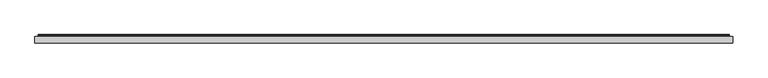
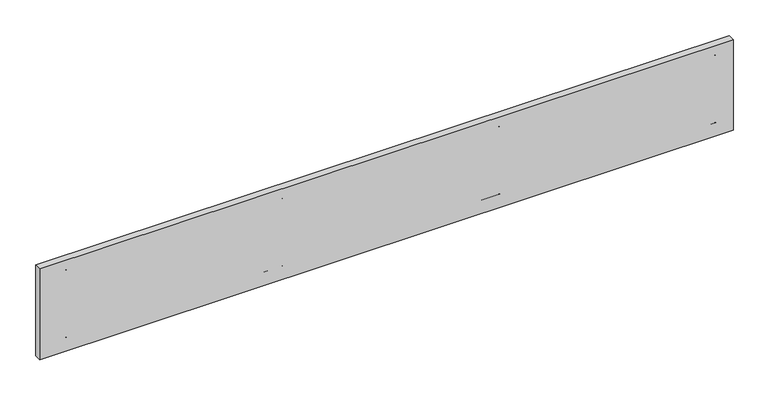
"""IFC4 building model written with IfcOpenShell, lengths in millimetres: furniture geometry, Geiger_GeigerOneCasegoods_WallTileTopTileorWallMountedFabric : RR Fabric 108Wx 1.25Dx 15H."""

from ifc_helpers import new_model, si_unit, point, frame, frame_2d, origin, origin_with_axes, place, context, project, spatial, polyline, circle_curve, trimmed, segment, composite_curve, outline, extrude, source, transform, mapped, element, save


def furniture_3494295b(model_context):
    return source(origin(), model_context, "Body", "SweptSolid", [
        extrude(outline(composite_curve([segment(polyline([(3.5052, 32.2904), (3.5052, 39.2246), (2.6924, 40.012), (0.7874, 40.012), (0.0, 40.8248), (0.0, 72.524), (1.2954, 72.524), (2.8956, 70.9238), (2.8956, 46.3366), (3.7084, 45.5238), (5.588, 45.5238), (6.4008, 44.7364), (6.4008, 31.3252)]), True, "CONTINUOUS"), segment(trimmed(circle_curve(frame_2d((5.5973579, 31.3345579)), 0.8034966), [point((6.4008, 31.3252))], [point((5.0292, 30.7664))], False, "CARTESIAN"), True, "CONTINUOUS"), segment(polyline([(5.0292, 30.7664), (3.5052, 32.2904)]), True, "CONTINUOUS")], self_intersect=False)), frame((1761.336, 0.0, 0.0), z_axis=(1.0, 0.0, 0.0), x_axis=(0.0, 1.0, 0.0)), (0.0, 0.0, 1.0), 76.0),
        extrude(outline(composite_curve([segment(polyline([(3.5052, 314.7864), (3.5052, 321.7206), (2.6924, 322.508), (0.7874, 322.508), (0.0, 323.3208), (0.0, 355.02), (1.2954, 355.02), (2.8956, 353.4198), (2.8956, 328.8326), (3.7084, 328.0198), (5.588, 328.0198), (6.4008, 327.2324), (6.4008, 313.8212)]), True, "CONTINUOUS"), segment(trimmed(circle_curve(frame_2d((5.5973579, 313.8305579)), 0.8034966), [point((6.4008, 313.8212))], [point((5.0292, 313.2624))], False, "CARTESIAN"), True, "CONTINUOUS"), segment(polyline([(5.0292, 313.2624), (3.5052, 314.7864)]), True, "CONTINUOUS")], self_intersect=False)), frame((1761.336, 0.0, 0.0), z_axis=(1.0, 0.0, 0.0), x_axis=(0.0, 1.0, 0.0)), (0.0, 0.0, 1.0), 76.0),
        extrude(outline(composite_curve([segment(polyline([(3.5052, 32.2904), (3.5052, 39.2246), (2.6924, 40.012), (0.7874, 40.012), (0.0, 40.8248), (0.0, 72.524), (1.2954, 72.524), (2.8956, 70.9238), (2.8956, 46.3366), (3.7084, 45.5238), (5.588, 45.5238), (6.4008, 44.7364), (6.4008, 31.3252)]), True, "CONTINUOUS"), segment(trimmed(circle_curve(frame_2d((5.5973579, 31.3345579)), 0.8034966), [point((6.4008, 31.3252))], [point((5.0292, 30.7664))], False, "CARTESIAN"), True, "CONTINUOUS"), segment(polyline([(5.0292, 30.7664), (3.5052, 32.2904)]), True, "CONTINUOUS")], self_intersect=False)), frame((905.864, 0.0, 0.0), z_axis=(1.0, 0.0, 0.0), x_axis=(0.0, 1.0, 0.0)), (0.0, 0.0, 1.0), 76.0),
        extrude(outline(composite_curve([segment(polyline([(3.5052, 314.7864), (3.5052, 321.7206), (2.6924, 322.508), (0.7874, 322.508), (0.0, 323.3208), (0.0, 355.02), (1.2954, 355.02), (2.8956, 353.4198), (2.8956, 328.8326), (3.7084, 328.0198), (5.588, 328.0198), (6.4008, 327.2324), (6.4008, 313.8212)]), True, "CONTINUOUS"), segment(trimmed(circle_curve(frame_2d((5.5973579, 313.8305579)), 0.8034966), [point((6.4008, 313.8212))], [point((5.0292, 313.2624))], False, "CARTESIAN"), True, "CONTINUOUS"), segment(polyline([(5.0292, 313.2624), (3.5052, 314.7864)]), True, "CONTINUOUS")], self_intersect=False)), frame((905.864, 0.0, 0.0), z_axis=(1.0, 0.0, 0.0), x_axis=(0.0, 1.0, 0.0)), (0.0, 0.0, 1.0), 76.0),
        extrude(outline(composite_curve([segment(polyline([(2.8948, 38.2316), (2.8948, 31.2974), (3.7076, 30.51), (5.6126, 30.51), (6.4, 29.6972), (6.4, -2.002), (5.1046, -2.002), (3.5044, -0.4018), (3.5044, 24.1854), (2.6916, 24.9982), (0.812, 24.9982), (-0.0008, 25.7856), (-0.0008, 39.1968)]), True, "CONTINUOUS"), segment(trimmed(circle_curve(frame_2d((0.8026421, 39.1874421)), 0.8034966), [point((-0.0008, 39.1968))], [point((1.3708, 39.7556))], False, "CARTESIAN"), True, "CONTINUOUS"), segment(polyline([(1.3708, 39.7556), (2.8948, 38.2316)]), True, "CONTINUOUS")], self_intersect=False)), frame((12.5, 0.0, 0.0), z_axis=(1.0, 0.0, 0.0), x_axis=(0.0, 1.0, 0.0)), (0.0, 0.0, 1.0), 2718.2),
        extrude(outline(composite_curve([segment(polyline([(3.5052, 32.2904), (3.5052, 39.2246), (2.6924, 40.012), (0.7874, 40.012), (0.0, 40.8248), (0.0, 72.524), (1.2954, 72.524), (2.8956, 70.9238), (2.8956, 46.3366), (3.7084, 45.5238), (5.588, 45.5238), (6.4008, 44.7364), (6.4008, 31.3252)]), True, "CONTINUOUS"), segment(trimmed(circle_curve(frame_2d((5.5973579, 31.3345579)), 0.8034966), [point((6.4008, 31.3252))], [point((5.0292, 30.7664))], False, "CARTESIAN"), True, "CONTINUOUS"), segment(polyline([(5.0292, 30.7664), (3.5052, 32.2904)]), True, "CONTINUOUS")], self_intersect=False)), frame((50.0, 0.0, 0.0), z_axis=(1.0, 0.0, 0.0), x_axis=(0.0, 1.0, 0.0)), (0.0, 0.0, 1.0), 76.0),
        extrude(outline(composite_curve([segment(polyline([(2.8956, 46.3366), (3.7084, 45.5238), (5.588, 45.5238), (6.4008, 44.7364), (6.4008, 31.3252)]), True, "CONTINUOUS"), segment(trimmed(circle_curve(frame_2d((5.5973579, 31.3345579)), 0.8034966), [point((6.4008, 31.3252))], [point((5.0292, 30.7664))], False, "CARTESIAN"), True, "CONTINUOUS"), segment(polyline([(5.0292, 30.7664), (3.5052, 32.2904), (3.5052, 39.2246), (2.6924, 40.012), (0.7874, 40.012), (0.0, 40.8248), (0.0, 72.524), (1.2954, 72.524), (2.8956, 70.9238), (2.8956, 46.3366)]), True, "CONTINUOUS")], self_intersect=False)), frame((2617.2, 0.0, 0.0), z_axis=(1.0, 0.0, 0.0), x_axis=(0.0, 1.0, 0.0)), (0.0, 0.0, 1.0), 76.0),
        extrude(outline(composite_curve([segment(polyline([(2.8956, 328.8326), (3.7084, 328.0198), (5.588, 328.0198), (6.4008, 327.2324), (6.4008, 313.8212)]), True, "CONTINUOUS"), segment(trimmed(circle_curve(frame_2d((5.5973579, 313.8305579)), 0.8034966), [point((6.4008, 313.8212))], [point((5.0292, 313.2624))], False, "CARTESIAN"), True, "CONTINUOUS"), segment(polyline([(5.0292, 313.2624), (3.5052, 314.7864), (3.5052, 321.7206), (2.6924, 322.508), (0.7874, 322.508), (0.0, 323.3208), (0.0, 355.02), (1.2954, 355.02), (2.8956, 353.4198), (2.8956, 328.8326)]), True, "CONTINUOUS")], self_intersect=False)), frame((2617.2, 0.0, 0.0), z_axis=(1.0, 0.0, 0.0), x_axis=(0.0, 1.0, 0.0)), (0.0, 0.0, 1.0), 76.0),
        extrude(outline(composite_curve([segment(polyline([(3.5052, 314.7864), (3.5052, 321.7206), (2.6924, 322.508), (0.7874, 322.508), (0.0, 323.3208), (0.0, 355.02), (1.2954, 355.02), (2.8956, 353.4198), (2.8956, 328.8326), (3.7084, 328.0198), (5.588, 328.0198), (6.4008, 327.2324), (6.4008, 313.8212)]), True, "CONTINUOUS"), segment(trimmed(circle_curve(frame_2d((5.5973579, 313.8305579)), 0.8034966), [point((6.4008, 313.8212))], [point((5.0292, 313.2624))], False, "CARTESIAN"), True, "CONTINUOUS"), segment(polyline([(5.0292, 313.2624), (3.5052, 314.7864)]), True, "CONTINUOUS")], self_intersect=False)), frame((50.0, 0.0, 0.0), z_axis=(1.0, 0.0, 0.0), x_axis=(0.0, 1.0, 0.0)), (0.0, 0.0, 1.0), 76.0),
        extrude(outline(composite_curve([segment(polyline([(2.8948, 320.7418), (2.8948, 313.8076), (3.7076, 313.0202), (5.6126, 313.0202), (6.4, 312.2074), (6.4, 280.5082), (5.1046, 280.5082), (3.5044, 282.1084), (3.5044, 306.6956), (2.6916, 307.5084), (0.812, 307.5084), (-0.0008, 308.2958), (-0.0008, 321.707)]), True, "CONTINUOUS"), segment(trimmed(circle_curve(frame_2d((0.8026421, 321.6976421)), 0.8034966), [point((-0.0008, 321.707))], [point((1.3708, 322.2658))], False, "CARTESIAN"), True, "CONTINUOUS"), segment(polyline([(1.3708, 322.2658), (2.8948, 320.7418)]), True, "CONTINUOUS")], self_intersect=False)), frame((12.5, 0.0, 0.0), z_axis=(1.0, 0.0, 0.0), x_axis=(0.0, 1.0, 0.0)), (0.0, 0.0, 1.0), 2718.2),
        extrude(outline(polyline([(2743.2, 0.0), (2743.2, -26.0), (0.0, -26.0), (0.0, 0.0), (2743.2, 0.0)])), origin_with_axes(), (0.0, 0.0, 1.0), 380.0),
    ])


if __name__ == "__main__":
    model = new_model("IFC4")
    model_context = context("Model", 3, world=origin())
    ifc_project = project(units=[si_unit("LENGTHUNIT", "METRE", prefix="MILLI")], contexts=[model_context])
    site = spatial("IfcSite", under=ifc_project)
    building = spatial("IfcBuilding", under=site)
    placement = place(None, origin())
    furniture_shape = furniture_3494295b(model_context)
    element("IfcFurniture", 1, ObjectType="Geiger_GeigerOneCasegoods_WallTileTopTileorWallMountedFabric : RR Fabric 108Wx 1.25Dx 15H", at=placement, inside=building, context=model_context, shape_type="MappedRepresentation", body=[
        mapped(furniture_shape, transform((0.0, 0.0, 0.0), x_axis=(1.0, 0.0, 0.0), y_axis=(0.0, 1.0, 0.0), z_axis=(0.0, 0.0, 1.0))),
    ])
    save(model, "model.ifc")
